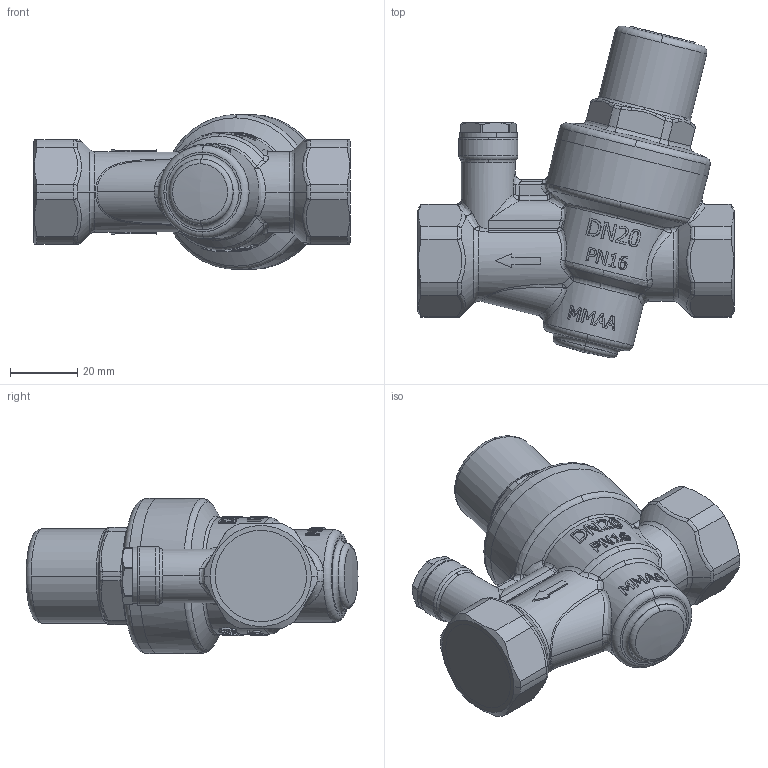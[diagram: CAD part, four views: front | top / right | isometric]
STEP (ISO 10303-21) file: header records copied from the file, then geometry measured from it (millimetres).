
FILE_DESCRIPTION (( 'STEP AP214' ), '1' );
FILE_NAME ('BPR_kompaktowy_reduktor_cisnienia_wody_9041200_0_3D_AFRISO.STEP', '2025-04-16T11:21:26', ( '' ), ( '' ), 'SwSTEP 2.0', 'SolidWorks 2024', '' );
FILE_SCHEMA (( 'AUTOMOTIVE_DESIGN' ));
Length unit declared in the file: millimetre
Products named in the file (4): BPR_kompaktowy_reduktor_cisnienia_wody_9041200_0_3D_AFRISO; 3001.872.02; 7027.115.00; 4401.008.02
Assembly tree (3 placements, depth 2):
  BPR_kompaktowy_reduktor_cisnienia_wody_9041200_0_3D_AFRISO
    4401.008.02
    7027.115.00
    3001.872.02
Bounding box: 94 x 98.47 x 46 mm (x, y, z)
Volume: 40889.2 mm3; surface area: 26235.6 mm2
Topology: 2 solids, 4 shells, 730 faces, 1916 edges, 1225 vertices
Faces by surface type: bspline 259, plane 231, cylinder 124, torus 63, cone 38, sphere 15
Entity records: 38436 total; most frequent: CARTESIAN_POINT 16421, ORIENTED_EDGE 3816, DIRECTION 2521, EDGE_CURVE 1909, VERTEX_POINT 1225, AXIS2_PLACEMENT_3D 919, EDGE_LOOP 769, B_SPLINE_CURVE_WITH_KNOTS 744
